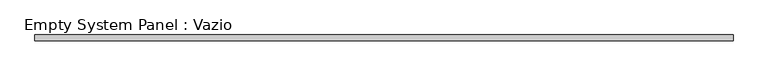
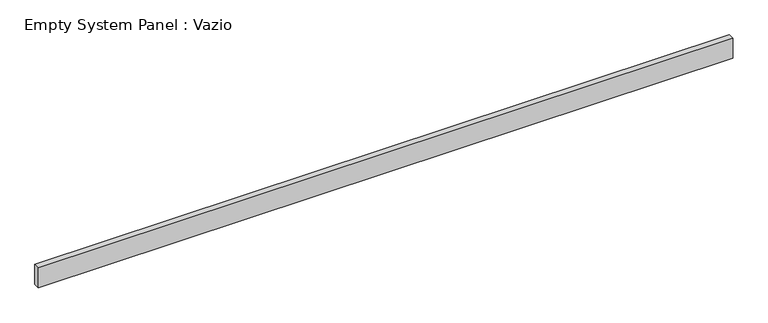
"""IFC4 building model written with IfcOpenShell, lengths in millimetres: plate geometry, Empty System Panel : Vazio."""

from ifc_helpers import new_model, si_unit, origin, origin_with_axes, place, context, project, spatial, polyline, outline, extrude, source, transform, mapped, element, save


def empty_system_panel_vazio_96ce973a(model_context):
    return source(origin(), model_context, "Body", "SweptSolid", [
        extrude(outline(polyline([(5749.8086267, 50.0), (-5749.8086267, 50.0), (-5749.8086267, 150.0), (5749.8086267, 150.0), (5749.8086267, 50.0)])), origin_with_axes(), (0.0, 0.0, 1.0), 348.6289106),
    ])


if __name__ == "__main__":
    model = new_model("IFC4")
    model_context = context("Model", 3, world=origin())
    ifc_project = project(units=[si_unit("LENGTHUNIT", "METRE", prefix="MILLI")], contexts=[model_context])
    site = spatial("IfcSite", under=ifc_project)
    building = spatial("IfcBuilding", under=site)
    placement = place(None, origin())
    empty_system_panel_vazio_shape = empty_system_panel_vazio_96ce973a(model_context)
    element("IfcPlate", 1, ObjectType="Empty System Panel : Vazio", at=placement, inside=building, context=model_context, shape_type="MappedRepresentation", body=[
        mapped(empty_system_panel_vazio_shape, transform((0.0, 0.0, 0.0), x_axis=(1.0, 0.0, 0.0), y_axis=(0.0, 1.0, 0.0), z_axis=(0.0, 0.0, 1.0))),
    ])
    save(model, "model.ifc")
